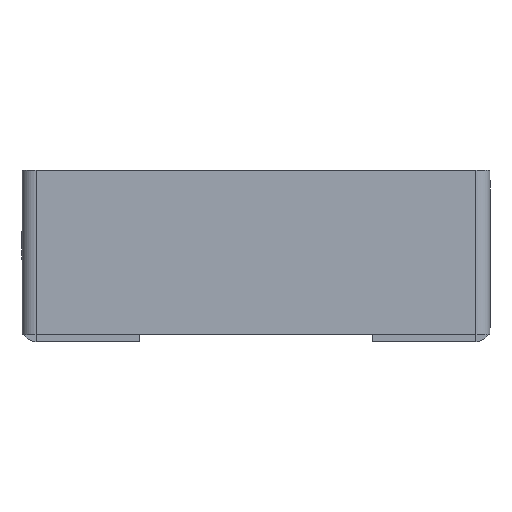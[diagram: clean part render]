
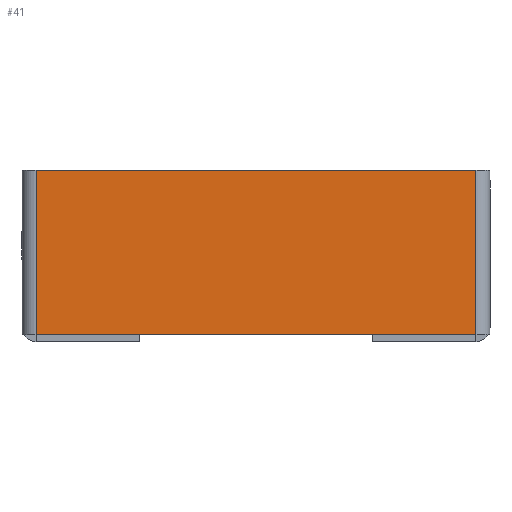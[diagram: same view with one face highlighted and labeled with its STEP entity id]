
A CAD part, front view. The second image highlights one B-rep face of the part: STEP entity #41.
In plain terms, the highlighted planar face has unit normal (0, -1, 0).
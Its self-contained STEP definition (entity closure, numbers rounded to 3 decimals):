
#41 = ADVANCED_FACE ( 'NONE', ( #1100 ), #7982, .F. ) ;
#84 = ORIENTED_EDGE ( 'NONE', *, *, #2562, .F. ) ;
#90 = DIRECTION ( 'NONE',  ( 0., 0., 1. ) ) ;
#203 = EDGE_CURVE ( 'NONE', #5988, #6239, #6410, .T. ) ;
#213 = VECTOR ( 'NONE', #4247, 1000. ) ;
#1100 = FACE_OUTER_BOUND ( 'NONE', #6402, .T. ) ;
#1201 = ORIENTED_EDGE ( 'NONE', *, *, #4894, .F. ) ;
#1336 = LINE ( 'NONE', #5519, #6780 ) ;
#1377 = VECTOR ( 'NONE', #1453, 1000. ) ;
#1453 = DIRECTION ( 'NONE',  ( 0., 0., -1. ) ) ;
#2043 = AXIS2_PLACEMENT_3D ( 'NONE', #2127, #3328, #90 ) ;
#2127 = CARTESIAN_POINT ( 'NONE',  ( 0., -2.5, 0. ) ) ;
#2362 = ORIENTED_EDGE ( 'NONE', *, *, #2510, .T. ) ;
#2368 = CARTESIAN_POINT ( 'NONE',  ( 77.5, -2.5, 0. ) ) ;
#2510 = EDGE_CURVE ( 'NONE', #5579, #7087, #1336, .T. ) ;
#2562 = EDGE_CURVE ( 'NONE', #5988, #7087, #5222, .T. ) ;
#3328 = DIRECTION ( 'NONE',  ( 0., 1., 0. ) ) ;
#4028 = CARTESIAN_POINT ( 'NONE',  ( -77.5, -2.5, 0. ) ) ;
#4247 = DIRECTION ( 'NONE',  ( 1., 0., 0. ) ) ;
#4765 = DIRECTION ( 'NONE',  ( 0., 0., 1. ) ) ;
#4894 = EDGE_CURVE ( 'NONE', #5579, #6239, #5360, .T. ) ;
#5043 = VECTOR ( 'NONE', #5504, 1000. ) ;
#5222 = LINE ( 'NONE', #6962, #213 ) ;
#5237 = CARTESIAN_POINT ( 'NONE',  ( -77.5, -2.5, -58. ) ) ;
#5360 = LINE ( 'NONE', #8076, #5043 ) ;
#5504 = DIRECTION ( 'NONE',  ( -1., 0., 0. ) ) ;
#5519 = CARTESIAN_POINT ( 'NONE',  ( 77.5, -2.5, -58. ) ) ;
#5579 = VERTEX_POINT ( 'NONE', #7590 ) ;
#5988 = VERTEX_POINT ( 'NONE', #6730 ) ;
#6239 = VERTEX_POINT ( 'NONE', #5237 ) ;
#6402 = EDGE_LOOP ( 'NONE', ( #7416, #1201, #2362, #84 ) ) ;
#6410 = LINE ( 'NONE', #4028, #1377 ) ;
#6730 = CARTESIAN_POINT ( 'NONE',  ( -77.5, -2.5, 0. ) ) ;
#6780 = VECTOR ( 'NONE', #4765, 1000. ) ;
#6962 = CARTESIAN_POINT ( 'NONE',  ( -80., -2.5, 0. ) ) ;
#7087 = VERTEX_POINT ( 'NONE', #2368 ) ;
#7416 = ORIENTED_EDGE ( 'NONE', *, *, #203, .T. ) ;
#7590 = CARTESIAN_POINT ( 'NONE',  ( 77.5, -2.5, -58. ) ) ;
#7982 = PLANE ( 'NONE',  #2043 ) ;
#8076 = CARTESIAN_POINT ( 'NONE',  ( -80., -2.5, -58. ) ) ;
